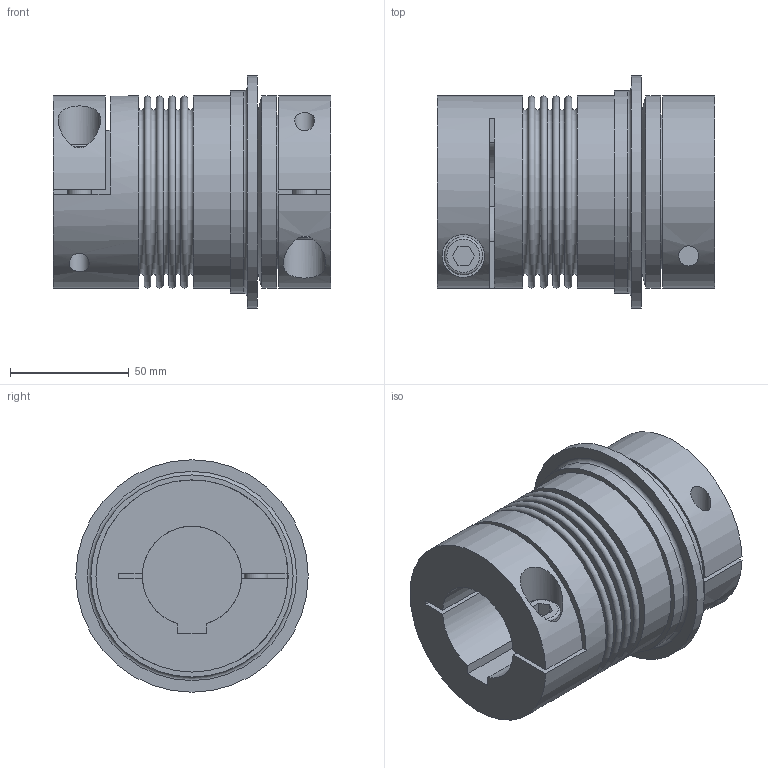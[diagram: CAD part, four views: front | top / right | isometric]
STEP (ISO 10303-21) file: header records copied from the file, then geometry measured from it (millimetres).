
FILE_DESCRIPTION(/* description */ ('STEP AP214'),/* implementation_level */ '2;1');
FILE_NAME(/* name */ 'C:\Diequa Files\DieQua Coupling\TB2\STP\TB2.80.117.F.#.#.stp',/* time_stamp */ '2019-04-26T10:42:24-05:00',/* author */ ('DiequaCAD'),/* organization */ (''),/* preprocessor_version */ 'ST-DEVELOPER v18',/* originating_system */ 'Autodesk Inventor 2020',/* authorisation */ ' ');
FILE_SCHEMA (('AUTOMOTIVE_DESIGN { 1 0 10303 214 3 1 1 }'));
Length unit declared in the file: millimetre
Products named in the file (1): TB2.80.117.F.#.#
Bounding box: 117 x 98 x 98 mm (x, y, z)
Volume: 483714.6 mm3; surface area: 82926.8 mm2
Topology: 1 solids, 1 shells, 90 faces, 212 edges, 148 vertices
Faces by surface type: plane 57, cylinder 20, torus 12, cone 1
Full cylindrical faces by diameter (mm): 8.5 x2, 10 x2, 11 x2, 16 x2, 18 x2, 65 x1, 81 x3, 85.2 x1, 98 x1
Entity records: 2857 total; most frequent: CARTESIAN_POINT 603, DIRECTION 491, ORIENTED_EDGE 424, EDGE_CURVE 212, AXIS2_PLACEMENT_3D 194, VERTEX_POINT 148, EDGE_LOOP 118, LINE 103
